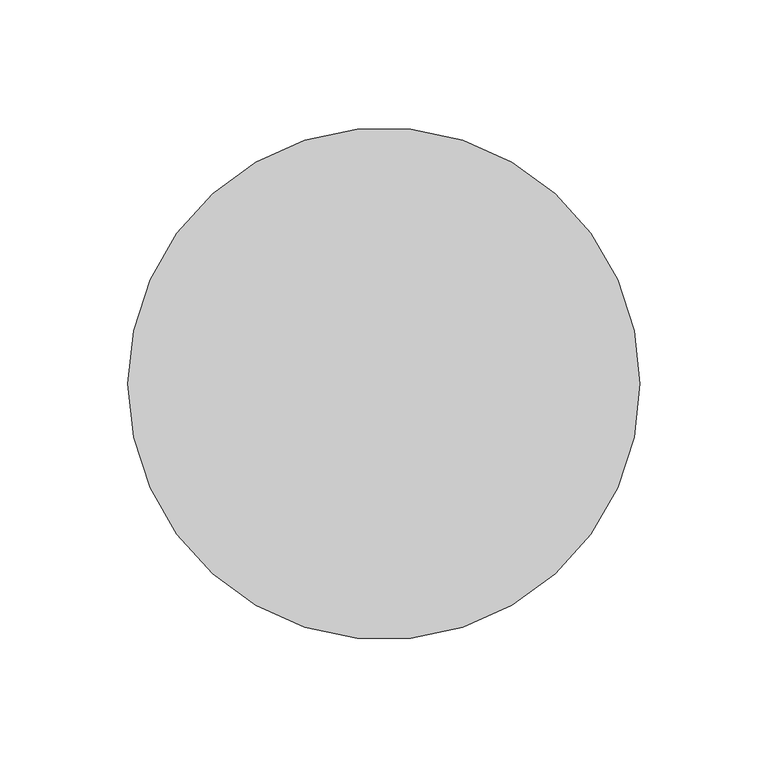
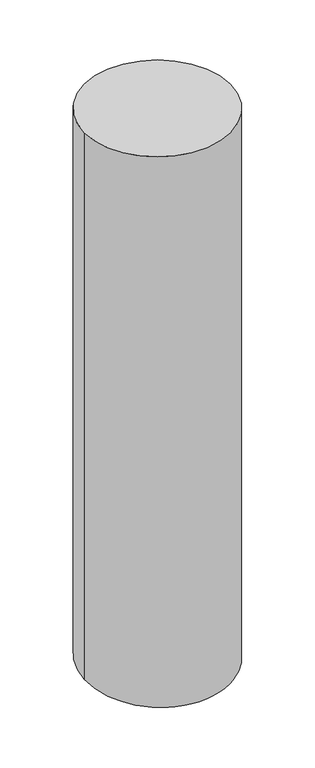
"""IFC4 building model written with IfcOpenShell, lengths in millimetres: member geometry, 矩形竖梃 : 圆瓦."""

import ifcopenshell
import ifcopenshell.guid

model = None  # the IFC model being written
_history = None  # IfcOwnerHistory: only IFC2X3 demands one
_inside = {}  # id of a spatial element -> (the spatial element, [elements in it])
_under = {}  # id of a project, library or spatial element -> (it, [spatial elements below it])
_declared = {}  # id of a project -> (the project, [libraries it declares])
_typed = {}  # id of a type object -> (the type object, [elements of that type])
_made_of = {}  # id of a material, layer set ... -> (it, [elements and type objects made of it])


def new_model(schema):
    """Start an empty IFC model of exactly this schema.

    Asked for "IFC4X3", IfcOpenShell would pick the latest addendum, in which some entities
    have other attributes; the version numbers below select the first issue.
    IFC2X3 requires an IfcOwnerHistory on every rooted entity: one is made here for all.
    """
    global model, _history
    if schema == "IFC4X3":
        model = ifcopenshell.file(schema_version=(4, 3, 0, 0))
    else:
        model = ifcopenshell.file(schema=schema)
    _inside.clear()
    _under.clear()
    _declared.clear()
    _typed.clear()
    _made_of.clear()
    _history = None
    if model.schema == "IFC2X3":
        org = make("IfcOrganization", Name="unknown")
        user = make(
            "IfcPersonAndOrganization",
            ThePerson=make("IfcPerson", FamilyName="unknown"),
            TheOrganization=org,
        )
        app = make(
            "IfcApplication",
            ApplicationDeveloper=org,
            Version="unknown",
            ApplicationFullName="unknown",
            ApplicationIdentifier="unknown",
        )
        _history = make(
            "IfcOwnerHistory",
            OwningUser=user,
            OwningApplication=app,
            ChangeAction="ADDED",
            CreationDate=0,
        )
    return model


def make(cls, **values):
    """One entity of the class cls with the attributes given. An attribute that is None is left unset."""
    return model.create_entity(
        cls, **{name: value for name, value in values.items() if value is not None}
    )


def rooted(cls, **values):
    """An entity with a GlobalId (a new one), such as an element, a storey or a relation."""
    return make(cls, GlobalId=ifcopenshell.guid.new(), OwnerHistory=_history, **values)


def si_unit(unit_type, name, prefix=None):
    """IfcSIUnit, for example si_unit("LENGTHUNIT", "METRE", prefix="MILLI")."""
    return make("IfcSIUnit", UnitType=unit_type, Prefix=prefix, Name=name)


def assignment(units):
    """IfcUnitAssignment: the units of a project."""
    return None if units is None else make("IfcUnitAssignment", Units=units)


def point(xyz):
    """IfcCartesianPoint."""
    return None if xyz is None else make("IfcCartesianPoint", Coordinates=xyz)


def direction(xyz):
    """IfcDirection."""
    return None if xyz is None else make("IfcDirection", DirectionRatios=xyz)


def frame(location, z_axis=None, x_axis=None):
    """IfcAxis2Placement3D, a coordinate frame: its origin and axes. An axis left out is left unset."""
    return make(
        "IfcAxis2Placement3D",
        Location=point(location),
        Axis=direction(z_axis),
        RefDirection=direction(x_axis),
    )


def origin():
    """The frame at (0, 0, 0) with its axes left unset."""
    return frame((0.0, 0.0, 0.0))


def origin_with_axes():
    """The frame at (0, 0, 0) with the z axis (0, 0, 1) and the x axis (1, 0, 0) written out."""
    return frame((0.0, 0.0, 0.0), z_axis=(0.0, 0.0, 1.0), x_axis=(1.0, 0.0, 0.0))


def place(relative_to, where):
    """IfcLocalPlacement: puts the frame where relative to a parent placement (None: the world)."""
    return make(
        "IfcLocalPlacement", PlacementRelTo=relative_to, RelativePlacement=where
    )


def context(
    kind, dimensions, precision=None, world=None, true_north=None, identifier=None
):
    """IfcGeometricRepresentationContext, for example the 3D "Model" context."""
    return make(
        "IfcGeometricRepresentationContext",
        ContextIdentifier=identifier,
        ContextType=kind,
        CoordinateSpaceDimension=dimensions,
        Precision=precision,
        WorldCoordinateSystem=world,
        TrueNorth=true_north,
    )


def project(units=None, contexts=None):
    """IfcProject with its units and contexts."""
    return rooted(
        "IfcProject",
        Name="project",
        RepresentationContexts=contexts,
        UnitsInContext=assignment(units),
    )


def spatial(cls, under=None, at=None, **own):
    """A site, building, storey or space (cls), placed at a placement, below another one or the project."""
    s = rooted(cls, ObjectPlacement=at, **own)
    if under is not None:
        _under.setdefault(under.id(), (under, []))[1].append(s)
    return s


def circle_curve(where, radius):
    """IfcCircle in the frame where."""
    return make("IfcCircle", Position=where, Radius=radius)


def ellipse_curve(where, semi_axis1, semi_axis2):
    """IfcEllipse in the frame where."""
    return make(
        "IfcEllipse", Position=where, SemiAxis1=semi_axis1, SemiAxis2=semi_axis2
    )


def shape(context_of_items, identifier, shape_type, items):
    """IfcShapeRepresentation: the items that make up one representation, for example the "Body"."""
    return make(
        "IfcShapeRepresentation",
        ContextOfItems=context_of_items,
        RepresentationIdentifier=identifier,
        RepresentationType=shape_type,
        Items=items,
    )


def source(mapping_origin, context_of_items, identifier, shape_type, items):
    """IfcRepresentationMap: a shape defined once, which mapped items show again and again."""
    return make(
        "IfcRepresentationMap",
        MappingOrigin=mapping_origin,
        MappedRepresentation=shape(context_of_items, identifier, shape_type, items),
    )


def transform(
    local_origin,
    x_axis=None,
    y_axis=None,
    z_axis=None,
    scale=None,
    scale2=None,
    scale3=None,
    uniform=True,
):
    """IfcCartesianTransformationOperator3D, or its non-uniform kind. x_axis, y_axis, z_axis: its Axis1, 2, 3."""
    if uniform:
        return make(
            "IfcCartesianTransformationOperator3D",
            Axis1=direction(x_axis),
            Axis2=direction(y_axis),
            LocalOrigin=point(local_origin),
            Scale=scale,
            Axis3=direction(z_axis),
        )
    return make(
        "IfcCartesianTransformationOperator3DnonUniform",
        Axis1=direction(x_axis),
        Axis2=direction(y_axis),
        LocalOrigin=point(local_origin),
        Scale=scale,
        Axis3=direction(z_axis),
        Scale2=scale2,
        Scale3=scale3,
    )


def mapped(mapping_source, mapping_target):
    """IfcMappedItem: shows the shape of a source again, moved by a transform."""
    return make(
        "IfcMappedItem", MappingSource=mapping_source, MappingTarget=mapping_target
    )


def made_of(thing, what):
    """Note that an element or type object is made of a material, layer set ...; save() writes the relation."""
    if what is not None:
        _made_of.setdefault(what.id(), (what, []))[1].append(thing)
    return thing


def element(
    cls,
    number,
    at=None,
    inside=None,
    cuts=None,
    type_object=None,
    material=None,
    context=None,
    identifier="Body",
    shape_type=None,
    held_by="IfcProductDefinitionShape",
    body=None,
    shapes=None,
    **own,
):
    """One element of the class cls, such as IfcWall. Its Tag is "e" and its number.

    at: its placement. inside: the storey or other place that contains it. cuts: it is an
    opening in that element (IfcRelVoidsElement). A single representation is given by context,
    identifier, shape_type and body (its items); several are given by shapes. held_by: the class
    of the entity that holds the representations. save() writes the other relations.
    """
    e = rooted(cls, Tag="e%d" % number, ObjectPlacement=at, **own)
    if body is not None:
        shapes = [shape(context, identifier, shape_type, body)]
    if shapes is not None:
        e.Representation = make(held_by, Representations=shapes)
    if inside is not None:
        _inside.setdefault(inside.id(), (inside, []))[1].append(e)
    if cuts is not None:
        rooted(
            "IfcRelVoidsElement", RelatingBuildingElement=cuts, RelatedOpeningElement=e
        )
    if type_object is not None:
        _typed.setdefault(type_object.id(), (type_object, []))[1].append(e)
    return made_of(e, material)


def aggregate(whole, parts):
    """IfcRelAggregates: a whole, such as a stair, and the parts it consists of."""
    return rooted("IfcRelAggregates", RelatingObject=whole, RelatedObjects=parts)


def save(model, path):
    """Write the relations noted so far, then the file.

    IfcRelAggregates (storeys below a building ...), IfcRelContainedInSpatialStructure (elements
    in a storey), IfcRelDefinesByType, IfcRelAssociatesMaterial and IfcRelDeclares: one each for
    every whole, place, type object, material and project.
    """
    for whole, parts in _under.values():
        aggregate(whole, parts)
    for where, things in _inside.values():
        rooted(
            "IfcRelContainedInSpatialStructure",
            RelatedElements=things,
            RelatingStructure=where,
        )
    for kind, things in _typed.values():
        rooted("IfcRelDefinesByType", RelatedObjects=things, RelatingType=kind)
    for what, things in _made_of.values():
        rooted("IfcRelAssociatesMaterial", RelatedObjects=things, RelatingMaterial=what)
    for by, libraries in _declared.values():
        rooted("IfcRelDeclares", RelatingContext=by, RelatedDefinitions=libraries)
    model.write(path)


def plane_surface(at):
    """IfcPlane: the flat surface through the origin of the frame at, square to its z axis."""
    return make("IfcPlane", Position=at)


def cylinder_surface(at, radius):
    """IfcCylindricalSurface: all points at the distance radius from the z axis of the frame at."""
    return make("IfcCylindricalSurface", Position=at, Radius=radius)


def advanced_brep(points, edges, surfaces, faces):
    """IfcAdvancedBrep: a solid bounded by faces that lie on surfaces and meet in shared edges.

    An edge is (start, end): straight between two places in points (the first is 0);
    or (start, end, curve); or (start, end, curve, False) where it runs against its curve.
    A face is (place in surfaces, loops), or (place, loops, False) where it looks against
    its surface's normal. A loop lists edges by number (the first is 1), with a minus sign
    where the edge is run from its end to its start. The first loop is the outer one.
    """
    corners = [point(p) for p in points]
    vertices = [make("IfcVertexPoint", VertexGeometry=c) for c in corners]
    made = []
    for start, end, *more in edges:
        made.append(
            make(
                "IfcEdgeCurve",
                EdgeStart=vertices[start],
                EdgeEnd=vertices[end],
                EdgeGeometry=more[0] if more else make("IfcPolyline", Points=[corners[start], corners[end]]),
                SameSense=more[1] if len(more) > 1 else True,
            )
        )
    hull = []
    for where, loops, *sense in faces:
        bounds = []
        for j, loop in enumerate(loops):
            ring = [make("IfcOrientedEdge", EdgeElement=made[abs(k) - 1], Orientation=k > 0) for k in loop]
            bounds.append(
                make(
                    "IfcFaceOuterBound" if j == 0 else "IfcFaceBound",
                    Bound=make("IfcEdgeLoop", EdgeList=ring),
                    Orientation=True,
                )
            )
        hull.append(make("IfcAdvancedFace", Bounds=bounds, FaceSurface=surfaces[where], SameSense=sense[0] if sense else True))
    return make("IfcAdvancedBrep", Outer=make("IfcClosedShell", CfsFaces=hull))


def member_3b22838b(model_context):
    return source(origin(), model_context, "Body", "AdvancedBrep", [
        advanced_brep(
        [(100.0, 0.0, 0.0), (-100.0, 0.0, 0.0), (100.0, 0.0, -790.1124317), (-100.0, 0.0, -790.1124317)],
        [
            (0, 1, circle_curve(origin_with_axes(), 100.0)),
            (1, 0, circle_curve(origin_with_axes(), 100.0)),
            (0, 2),
            (2, 3, ellipse_curve(frame((0.0, 0.0, -790.1124317), z_axis=(0.0, -0.067672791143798, 0.9977075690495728), x_axis=(0.0, 0.9977075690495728, 0.0676727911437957)), 100.2297698, 100.0)),
            (3, 1),
            (3, 2, ellipse_curve(frame((0.0, 0.0, -790.1124317), z_axis=(0.0, -0.067672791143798, 0.9977075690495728), x_axis=(0.0, 0.9977075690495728, 0.0676727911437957)), 100.2297698, 100.0)),
        ],
        [
            plane_surface(frame((0.0, -100.0, 0.0), z_axis=(0.0, 0.0, 1.0), x_axis=(-1.0, 0.0, 0.0))),
            cylinder_surface(origin_with_axes(), 100.0),
            plane_surface(frame((-304.8, 0.0, -790.1124317), z_axis=(0.0, 0.067672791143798, -0.9977075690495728), x_axis=(0.0, 0.9977075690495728, 0.067672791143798))),
        ],
        [
            (0, [[1, 2]]),
            (1, [[-1, 3, 4, 5]]),
            (1, [[-2, -5, 6, -3]]),
            (2, [[-6, -4]]),
        ],
    ),
    ])


if __name__ == "__main__":
    model = new_model("IFC4")
    model_context = context("Model", 3, world=origin())
    ifc_project = project(units=[si_unit("LENGTHUNIT", "METRE", prefix="MILLI")], contexts=[model_context])
    site = spatial("IfcSite", under=ifc_project)
    building = spatial("IfcBuilding", under=site)
    placement = place(None, origin())
    member_shape = member_3b22838b(model_context)
    element("IfcMember", 1, ObjectType="矩形竖梃 : 圆瓦", at=placement, inside=building, context=model_context, shape_type="MappedRepresentation", body=[
        mapped(member_shape, transform((0.0, 0.0, 0.0), x_axis=(1.0, 0.0, 0.0), y_axis=(0.0, 1.0, 0.0), z_axis=(0.0, 0.0, 1.0))),
    ])
    save(model, "model.ifc")
